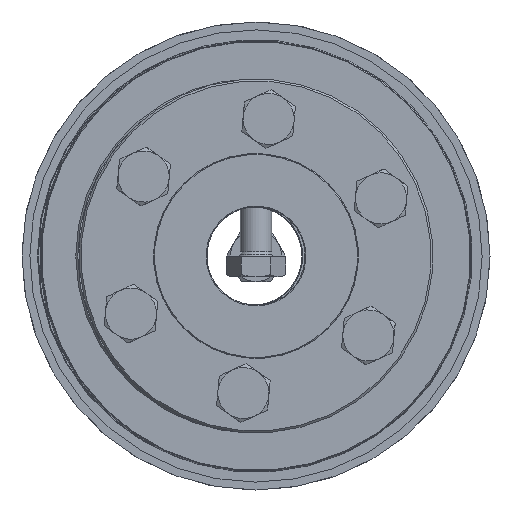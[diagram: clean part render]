
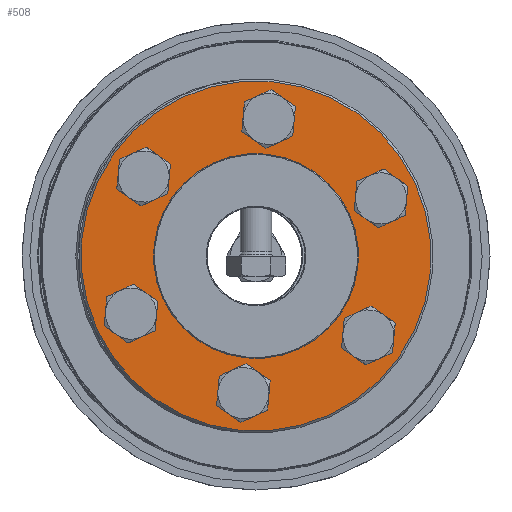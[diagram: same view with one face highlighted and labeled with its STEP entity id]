
A CAD part, left-side view. The second image highlights one B-rep face of the part: STEP entity #508.
In plain terms, the highlighted planar face has unit normal (-1, 0, 0).
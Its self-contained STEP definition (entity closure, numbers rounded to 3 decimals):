
#508 = ADVANCED_FACE( 'NONE', ( #811, #812, #813, #814, #815, #816, #817, #818 ), #819, .F. );
#811 = FACE_OUTER_BOUND( '', #1412, .T. );
#812 = FACE_BOUND( '', #1413, .T. );
#813 = FACE_BOUND( '', #1414, .T. );
#814 = FACE_BOUND( '', #1415, .T. );
#815 = FACE_BOUND( '', #1416, .T. );
#816 = FACE_BOUND( '', #1417, .T. );
#817 = FACE_BOUND( '', #1418, .T. );
#818 = FACE_BOUND( '', #1419, .T. );
#819 = PLANE( '', #1420 );
#1412 = EDGE_LOOP( '', ( #2113 ) );
#1413 = EDGE_LOOP( '', ( #2114 ) );
#1414 = EDGE_LOOP( '', ( #2115 ) );
#1415 = EDGE_LOOP( '', ( #2116 ) );
#1416 = EDGE_LOOP( '', ( #2117 ) );
#1417 = EDGE_LOOP( '', ( #2118 ) );
#1418 = EDGE_LOOP( '', ( #2119 ) );
#1419 = EDGE_LOOP( '', ( #2120 ) );
#1420 = AXIS2_PLACEMENT_3D( '', #2121, #2122, #2123 );
#2113 = ORIENTED_EDGE( '', *, *, #3558, .T. );
#2114 = ORIENTED_EDGE( '', *, *, #3559, .T. );
#2115 = ORIENTED_EDGE( '', *, *, #3560, .T. );
#2116 = ORIENTED_EDGE( '', *, *, #3561, .T. );
#2117 = ORIENTED_EDGE( '', *, *, #3562, .T. );
#2118 = ORIENTED_EDGE( '', *, *, #3554, .T. );
#2119 = ORIENTED_EDGE( '', *, *, #3563, .T. );
#2120 = ORIENTED_EDGE( '', *, *, #3564, .F. );
#2121 = CARTESIAN_POINT( '', ( 0., 26., 0. ) );
#2122 = DIRECTION( '', ( 1., 0., 0. ) );
#2123 = DIRECTION( '', ( 0., 1., 0. ) );
#3554 = EDGE_CURVE( 'NONE', #3891, #3891, #3892, .T. );
#3558 = EDGE_CURVE( 'NONE', #3899, #3899, #3900, .T. );
#3559 = EDGE_CURVE( 'NONE', #3901, #3901, #3902, .T. );
#3560 = EDGE_CURVE( 'NONE', #3903, #3903, #3904, .T. );
#3561 = EDGE_CURVE( 'NONE', #3905, #3905, #3906, .T. );
#3562 = EDGE_CURVE( 'NONE', #3907, #3907, #3908, .T. );
#3563 = EDGE_CURVE( 'NONE', #3909, #3909, #3910, .T. );
#3564 = EDGE_CURVE( 'NONE', #3911, #3911, #3912, .T. );
#3891 = VERTEX_POINT( '', #4463 );
#3892 = CIRCLE( '', #4464, 4.5 );
#3899 = VERTEX_POINT( '', #4471 );
#3900 = CIRCLE( '', #4472, 44.5 );
#3901 = VERTEX_POINT( '', #4473 );
#3902 = CIRCLE( '', #4474, 4.5 );
#3903 = VERTEX_POINT( '', #4475 );
#3904 = CIRCLE( '', #4476, 4.5 );
#3905 = VERTEX_POINT( '', #4477 );
#3906 = CIRCLE( '', #4478, 4.5 );
#3907 = VERTEX_POINT( '', #4479 );
#3908 = CIRCLE( '', #4480, 4.5 );
#3909 = VERTEX_POINT( '', #4481 );
#3910 = CIRCLE( '', #4482, 4.5 );
#3911 = VERTEX_POINT( '', #4483 );
#3912 = CIRCLE( '', #4484, 26. );
#4463 = CARTESIAN_POINT( '', ( 0., 17.5, -34.811 ) );
#4464 = AXIS2_PLACEMENT_3D( '', #5092, #5093, #5094 );
#4471 = CARTESIAN_POINT( '', ( 0., 0., -44.5 ) );
#4472 = AXIS2_PLACEMENT_3D( '', #5104, #5105, #5106 );
#4473 = CARTESIAN_POINT( '', ( 0., 17.5, 25.811 ) );
#4474 = AXIS2_PLACEMENT_3D( '', #5107, #5108, #5109 );
#4475 = CARTESIAN_POINT( '', ( 0., -17.5, 25.811 ) );
#4476 = AXIS2_PLACEMENT_3D( '', #5110, #5111, #5112 );
#4477 = CARTESIAN_POINT( '', ( 0., -35., -4.5 ) );
#4478 = AXIS2_PLACEMENT_3D( '', #5113, #5114, #5115 );
#4479 = CARTESIAN_POINT( '', ( 0., -17.5, -34.811 ) );
#4480 = AXIS2_PLACEMENT_3D( '', #5116, #5117, #5118 );
#4481 = CARTESIAN_POINT( '', ( 0., 35., -4.5 ) );
#4482 = AXIS2_PLACEMENT_3D( '', #5119, #5120, #5121 );
#4483 = CARTESIAN_POINT( '', ( 0., 0., 26. ) );
#4484 = AXIS2_PLACEMENT_3D( '', #5122, #5123, #5124 );
#5092 = CARTESIAN_POINT( '', ( 0., 17.5, -30.311 ) );
#5093 = DIRECTION( '', ( 1., 0., 0. ) );
#5094 = DIRECTION( '', ( 0., 0., -1. ) );
#5104 = CARTESIAN_POINT( '', ( 0., 0., 0. ) );
#5105 = DIRECTION( '', ( -1., 0., 0. ) );
#5106 = DIRECTION( '', ( 0., 0., -1. ) );
#5107 = CARTESIAN_POINT( '', ( 0., 17.5, 30.311 ) );
#5108 = DIRECTION( '', ( 1., 0., 0. ) );
#5109 = DIRECTION( '', ( 0., 0., -1. ) );
#5110 = CARTESIAN_POINT( '', ( 0., -17.5, 30.311 ) );
#5111 = DIRECTION( '', ( 1., 0., 0. ) );
#5112 = DIRECTION( '', ( 0., 0., -1. ) );
#5113 = CARTESIAN_POINT( '', ( 0., -35., 0. ) );
#5114 = DIRECTION( '', ( 1., 0., 0. ) );
#5115 = DIRECTION( '', ( 0., 0., -1. ) );
#5116 = CARTESIAN_POINT( '', ( 0., -17.5, -30.311 ) );
#5117 = DIRECTION( '', ( 1., 0., 0. ) );
#5118 = DIRECTION( '', ( 0., 0., -1. ) );
#5119 = CARTESIAN_POINT( '', ( 0., 35., 0. ) );
#5120 = DIRECTION( '', ( 1., 0., 0. ) );
#5121 = DIRECTION( '', ( 0., 0., -1. ) );
#5122 = CARTESIAN_POINT( '', ( 0., 0., 0. ) );
#5123 = DIRECTION( '', ( -1., 0., 0. ) );
#5124 = DIRECTION( '', ( 0., 0., 1. ) );
